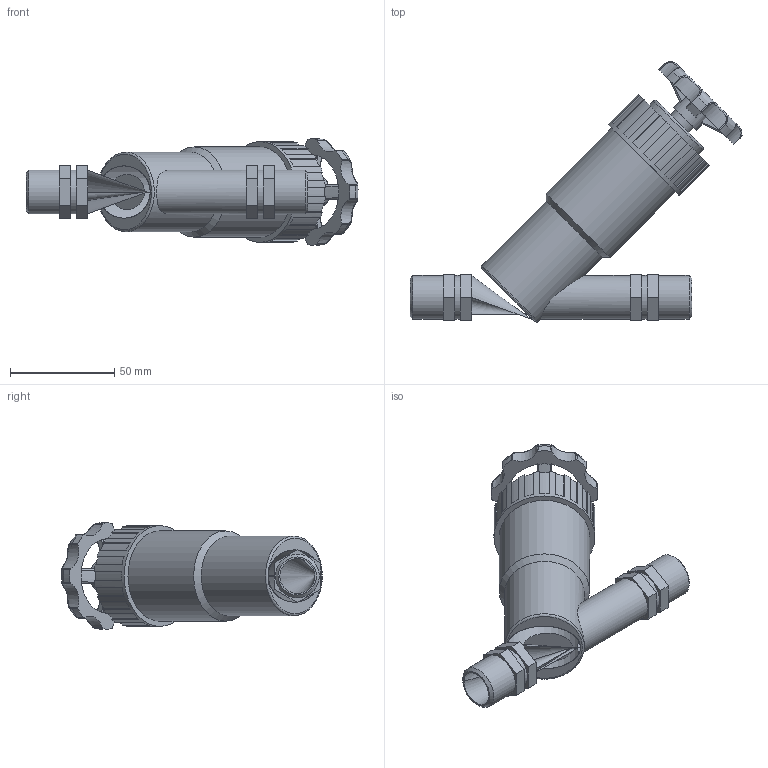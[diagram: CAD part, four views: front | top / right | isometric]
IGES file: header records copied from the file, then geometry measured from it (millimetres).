
Global section: file name: 03047055_030470550A_03049055.ipt; native system: Autodesk Inventor 2015; preprocessor: unknown; author: KIM; date: 20170619.121315; units: millimetre
Bounding box: 159 x 124.81 x 50.83 mm (x, y, z)
Volume: 3051.8 mm3; surface area: 37261.3 mm2
Topology: 1 solids, 4 shells, 221 faces, 595 edges, 385 vertices
Faces by surface type: plane 110, cylinder 57, bspline 25, revolution 22, cone 7
Full cylindrical faces by diameter (mm): 12.204 x1, 15.255 x1, 20.955 x6, 33.561 x1, 38.138 x1, 43.222 x1, 48.307 x1
